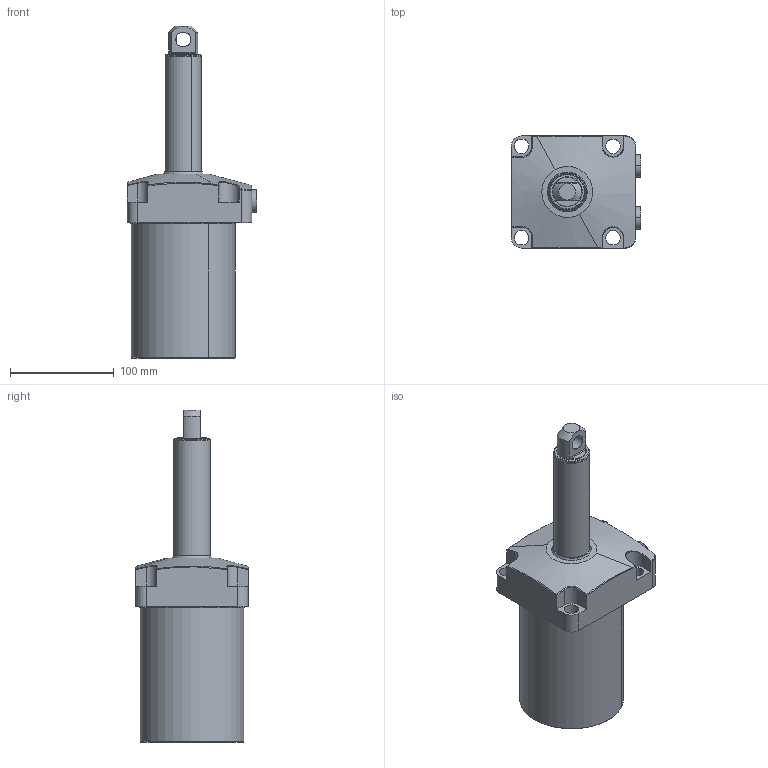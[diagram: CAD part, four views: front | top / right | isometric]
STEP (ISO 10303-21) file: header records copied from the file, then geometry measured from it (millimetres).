
FILE_DESCRIPTION(('CATIA V5 STEP Exchange'),'2;1');
FILE_NAME('C:\Users\kong\Desktop\GCD-25-110X.stp','2014-11-04T06:50:24+00:00',('none'),('none'),'CATIA Version 5 Release 17 (IN-10)','CATIA V5 STEP AP203','none');
FILE_SCHEMA(('CONFIG_CONTROL_DESIGN'));
Length unit declared in the file: millimetre
Products named in the file (1): Product2
Assembly tree (4 placements, depth 2):
  Product2
    #56
    #5374
    #6260  x2
Bounding box: 124.81 x 108 x 319.5 mm (x, y, z)
Volume: 1533705.6 mm3; surface area: 120980.1 mm2
Topology: 4 solids, 4 shells, 171 faces, 420 edges, 272 vertices
Faces by surface type: plane 55, cylinder 52, cone 30, bspline 22, torus 12
Entity records: 6920 total; most frequent: CARTESIAN_POINT 3657, ORIENTED_EDGE 748, DIRECTION 457, EDGE_CURVE 374, VERTEX_POINT 244, AXIS2_PLACEMENT_3D 229, EDGE_LOOP 172, ADVANCED_FACE 149
